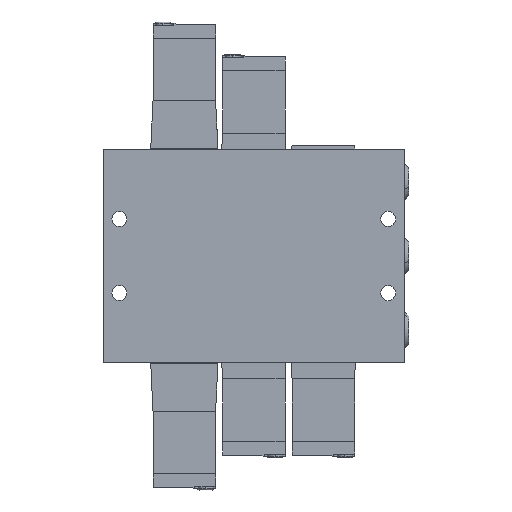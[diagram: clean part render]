
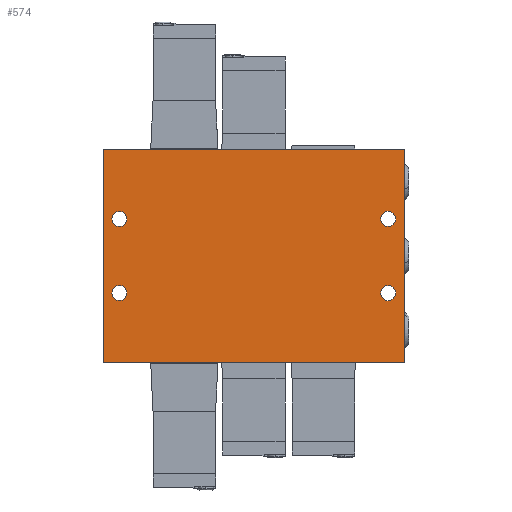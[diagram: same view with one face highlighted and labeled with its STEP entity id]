
A CAD part, front view. The second image highlights one B-rep face of the part: STEP entity #574.
In plain terms, the highlighted planar face has unit normal (0, -1, 0).
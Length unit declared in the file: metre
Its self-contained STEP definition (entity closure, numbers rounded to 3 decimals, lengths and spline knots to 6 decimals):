
#59 = AXIS2_PLACEMENT_3D ( 'NONE', #3414, #3635, #3757 ) ;
#454 = DIRECTION ( 'NONE',  ( 0., 0., 1. ) ) ;
#574 = ADVANCED_FACE ( 'NONE', ( #13985, #7641, #1033, #10633, #4136 ), #1681, .F. ) ;
#868 = ORIENTED_EDGE ( 'NONE', *, *, #14084, .F. ) ;
#987 = EDGE_CURVE ( 'NONE', #15795, #13954, #2659, .T. ) ;
#1033 = FACE_BOUND ( 'NONE', #7656, .T. ) ;
#1681 = PLANE ( 'NONE',  #16199 ) ;
#2189 = DIRECTION ( 'NONE',  ( 0., -1., 0. ) ) ;
#2302 = DIRECTION ( 'NONE',  ( 0., -1., 0. ) ) ;
#2378 = AXIS2_PLACEMENT_3D ( 'NONE', #10122, #2302, #11383 ) ;
#2659 = CIRCLE ( 'NONE', #9696, 0.00325 ) ;
#3142 = CARTESIAN_POINT ( 'NONE',  ( 0.065, -0.015, 0. ) ) ;
#3281 = CARTESIAN_POINT ( 'NONE',  ( 0.065, -0.015, 0.046 ) ) ;
#3414 = CARTESIAN_POINT ( 'NONE',  ( 0.058, -0.015, -0.016 ) ) ;
#3430 = CARTESIAN_POINT ( 'NONE',  ( -0.058, -0.015, 0.016 ) ) ;
#3450 = VERTEX_POINT ( 'NONE', #12892 ) ;
#3491 = DIRECTION ( 'NONE',  ( 0., -1., 0. ) ) ;
#3516 = DIRECTION ( 'NONE',  ( -1., 0., 0. ) ) ;
#3635 = DIRECTION ( 'NONE',  ( 0., -1., 0. ) ) ;
#3685 = ORIENTED_EDGE ( 'NONE', *, *, #5030, .F. ) ;
#3757 = DIRECTION ( 'NONE',  ( -1., 0., 0. ) ) ;
#3768 = VERTEX_POINT ( 'NONE', #12224 ) ;
#3772 = VERTEX_POINT ( 'NONE', #12166 ) ;
#3930 = VECTOR ( 'NONE', #10120, 1. ) ;
#4136 = FACE_OUTER_BOUND ( 'NONE', #8049, .T. ) ;
#4543 = ORIENTED_EDGE ( 'NONE', *, *, #987, .F. ) ;
#4549 = DIRECTION ( 'NONE',  ( 0., -1., 0. ) ) ;
#4560 = LINE ( 'NONE', #3142, #5383 ) ;
#4593 = ORIENTED_EDGE ( 'NONE', *, *, #14816, .F. ) ;
#4659 = VERTEX_POINT ( 'NONE', #11296 ) ;
#4681 = ORIENTED_EDGE ( 'NONE', *, *, #12920, .F. ) ;
#4774 = DIRECTION ( 'NONE',  ( 0., -1., 0. ) ) ;
#4886 = VERTEX_POINT ( 'NONE', #13016 ) ;
#5030 = EDGE_CURVE ( 'NONE', #3772, #14589, #6734, .T. ) ;
#5060 = CIRCLE ( 'NONE', #5229, 0.00325 ) ;
#5119 = EDGE_CURVE ( 'NONE', #13954, #15795, #9754, .T. ) ;
#5229 = AXIS2_PLACEMENT_3D ( 'NONE', #12512, #4774, #5428 ) ;
#5383 = VECTOR ( 'NONE', #12216, 1. ) ;
#5428 = DIRECTION ( 'NONE',  ( -1., 0., 0. ) ) ;
#5446 = AXIS2_PLACEMENT_3D ( 'NONE', #14400, #6798, #15652 ) ;
#6013 = EDGE_CURVE ( 'NONE', #13822, #4659, #9509, .T. ) ;
#6602 = CARTESIAN_POINT ( 'NONE',  ( 0.06125, -0.015, 0.016 ) ) ;
#6734 = LINE ( 'NONE', #13383, #10147 ) ;
#6798 = DIRECTION ( 'NONE',  ( 0., -1., 0. ) ) ;
#6924 = ORIENTED_EDGE ( 'NONE', *, *, #8149, .F. ) ;
#7459 = DIRECTION ( 'NONE',  ( 0., -1., 0. ) ) ;
#7641 = FACE_BOUND ( 'NONE', #15549, .T. ) ;
#7656 = EDGE_LOOP ( 'NONE', ( #6924, #868 ) ) ;
#7796 = VECTOR ( 'NONE', #9950, 1. ) ;
#8049 = EDGE_LOOP ( 'NONE', ( #4593, #14279, #3685, #4681 ) ) ;
#8143 = VERTEX_POINT ( 'NONE', #3281 ) ;
#8149 = EDGE_CURVE ( 'NONE', #4886, #13394, #10447, .T. ) ;
#8441 = CIRCLE ( 'NONE', #2378, 0.00325 ) ;
#8679 = EDGE_CURVE ( 'NONE', #14589, #8143, #14565, .T. ) ;
#8973 = AXIS2_PLACEMENT_3D ( 'NONE', #15030, #7459, #16279 ) ;
#9248 = CIRCLE ( 'NONE', #15616, 0.00325 ) ;
#9509 = CIRCLE ( 'NONE', #59, 0.00325 ) ;
#9696 = AXIS2_PLACEMENT_3D ( 'NONE', #16051, #4549, #12291 ) ;
#9704 = CARTESIAN_POINT ( 'NONE',  ( -0.05475, -0.015, -0.016 ) ) ;
#9754 = CIRCLE ( 'NONE', #8973, 0.00325 ) ;
#9761 = CIRCLE ( 'NONE', #5446, 0.00325 ) ;
#9950 = DIRECTION ( 'NONE',  ( -1., 0., 0. ) ) ;
#10019 = CARTESIAN_POINT ( 'NONE',  ( 0., -0.015, 0.046 ) ) ;
#10020 = CARTESIAN_POINT ( 'NONE',  ( 0.058, -0.015, 0.016 ) ) ;
#10120 = DIRECTION ( 'NONE',  ( 1., 0., 0. ) ) ;
#10122 = CARTESIAN_POINT ( 'NONE',  ( 0.058, -0.015, -0.016 ) ) ;
#10147 = VECTOR ( 'NONE', #454, 1. ) ;
#10447 = CIRCLE ( 'NONE', #13495, 0.00325 ) ;
#10633 = FACE_BOUND ( 'NONE', #11837, .T. ) ;
#10796 = DIRECTION ( 'NONE',  ( 0., 1., 0. ) ) ;
#11090 = CARTESIAN_POINT ( 'NONE',  ( -0.05475, -0.015, 0.016 ) ) ;
#11157 = CARTESIAN_POINT ( 'NONE',  ( 0., -0.015, -0.046 ) ) ;
#11178 = LINE ( 'NONE', #11157, #7796 ) ;
#11278 = DIRECTION ( 'NONE',  ( -1., 0., 0. ) ) ;
#11296 = CARTESIAN_POINT ( 'NONE',  ( 0.05475, -0.015, -0.016 ) ) ;
#11383 = DIRECTION ( 'NONE',  ( -1., 0., 0. ) ) ;
#11831 = CARTESIAN_POINT ( 'NONE',  ( -0.065, -0.015, 0.046 ) ) ;
#11837 = EDGE_LOOP ( 'NONE', ( #12451, #14905 ) ) ;
#11961 = CARTESIAN_POINT ( 'NONE',  ( 0.06125, -0.015, -0.016 ) ) ;
#12160 = ORIENTED_EDGE ( 'NONE', *, *, #5119, .F. ) ;
#12166 = CARTESIAN_POINT ( 'NONE',  ( -0.065, -0.015, -0.046 ) ) ;
#12216 = DIRECTION ( 'NONE',  ( 0., 0., -1. ) ) ;
#12224 = CARTESIAN_POINT ( 'NONE',  ( 0.065, -0.015, -0.046 ) ) ;
#12291 = DIRECTION ( 'NONE',  ( -1., 0., 0. ) ) ;
#12451 = ORIENTED_EDGE ( 'NONE', *, *, #15833, .F. ) ;
#12512 = CARTESIAN_POINT ( 'NONE',  ( -0.058, -0.015, 0.016 ) ) ;
#12892 = CARTESIAN_POINT ( 'NONE',  ( 0.05475, -0.015, 0.016 ) ) ;
#12920 = EDGE_CURVE ( 'NONE', #3768, #3772, #11178, .T. ) ;
#13016 = CARTESIAN_POINT ( 'NONE',  ( -0.06125, -0.015, 0.016 ) ) ;
#13383 = CARTESIAN_POINT ( 'NONE',  ( -0.065, -0.015, 0. ) ) ;
#13394 = VERTEX_POINT ( 'NONE', #11090 ) ;
#13495 = AXIS2_PLACEMENT_3D ( 'NONE', #3430, #3491, #3516 ) ;
#13725 = VERTEX_POINT ( 'NONE', #6602 ) ;
#13822 = VERTEX_POINT ( 'NONE', #11961 ) ;
#13954 = VERTEX_POINT ( 'NONE', #9704 ) ;
#13985 = FACE_BOUND ( 'NONE', #16137, .T. ) ;
#14084 = EDGE_CURVE ( 'NONE', #13394, #4886, #5060, .T. ) ;
#14183 = ORIENTED_EDGE ( 'NONE', *, *, #15784, .F. ) ;
#14279 = ORIENTED_EDGE ( 'NONE', *, *, #8679, .F. ) ;
#14400 = CARTESIAN_POINT ( 'NONE',  ( 0.058, -0.015, 0.016 ) ) ;
#14538 = CARTESIAN_POINT ( 'NONE',  ( -0.065, -0.015, -0.046 ) ) ;
#14565 = LINE ( 'NONE', #10019, #3930 ) ;
#14589 = VERTEX_POINT ( 'NONE', #11831 ) ;
#14593 = DIRECTION ( 'NONE',  ( 0., 0., 1. ) ) ;
#14619 = EDGE_CURVE ( 'NONE', #13725, #3450, #9761, .T. ) ;
#14816 = EDGE_CURVE ( 'NONE', #8143, #3768, #4560, .T. ) ;
#14905 = ORIENTED_EDGE ( 'NONE', *, *, #6013, .F. ) ;
#15030 = CARTESIAN_POINT ( 'NONE',  ( -0.058, -0.015, -0.016 ) ) ;
#15229 = ORIENTED_EDGE ( 'NONE', *, *, #14619, .F. ) ;
#15549 = EDGE_LOOP ( 'NONE', ( #4543, #12160 ) ) ;
#15616 = AXIS2_PLACEMENT_3D ( 'NONE', #10020, #2189, #11278 ) ;
#15652 = DIRECTION ( 'NONE',  ( -1., 0., 0. ) ) ;
#15784 = EDGE_CURVE ( 'NONE', #3450, #13725, #9248, .T. ) ;
#15795 = VERTEX_POINT ( 'NONE', #16266 ) ;
#15833 = EDGE_CURVE ( 'NONE', #4659, #13822, #8441, .T. ) ;
#16051 = CARTESIAN_POINT ( 'NONE',  ( -0.058, -0.015, -0.016 ) ) ;
#16137 = EDGE_LOOP ( 'NONE', ( #14183, #15229 ) ) ;
#16199 = AXIS2_PLACEMENT_3D ( 'NONE', #14538, #10796, #14593 ) ;
#16266 = CARTESIAN_POINT ( 'NONE',  ( -0.06125, -0.015, -0.016 ) ) ;
#16279 = DIRECTION ( 'NONE',  ( -1., 0., 0. ) ) ;
